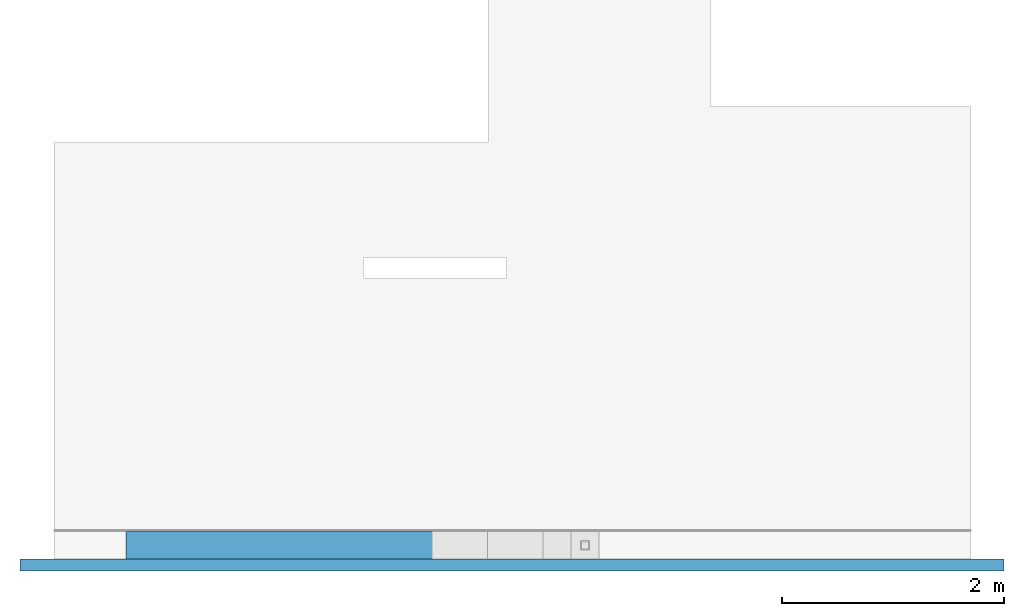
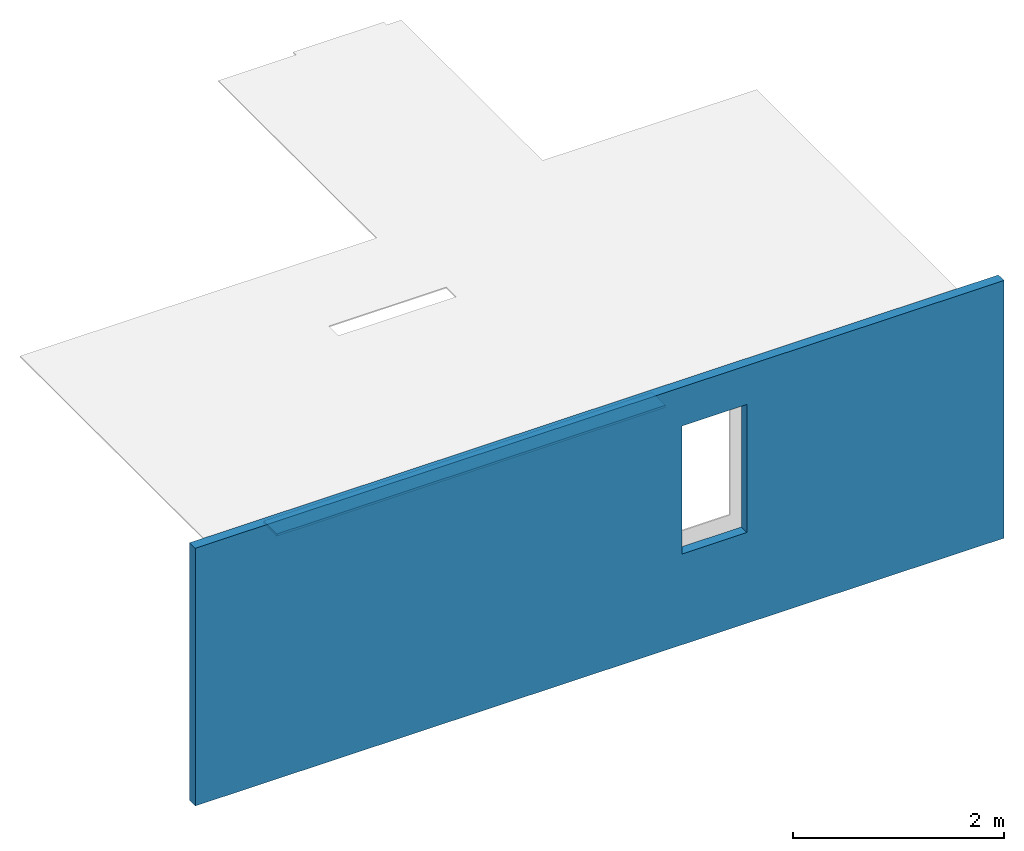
# One storey, part 1 of 2: 2 walls, 2 openings.
"""IFC4 building model written with IfcOpenShell, lengths in centimetres."""

import ifcopenshell
import ifcopenshell.guid

model = None  # the IFC model being written
_history = None  # IfcOwnerHistory: only IFC2X3 demands one
_inside = {}  # id of a spatial element -> (the spatial element, [elements in it])
_under = {}  # id of a project, library or spatial element -> (it, [spatial elements below it])
_declared = {}  # id of a project -> (the project, [libraries it declares])
_typed = {}  # id of a type object -> (the type object, [elements of that type])
_made_of = {}  # id of a material, layer set ... -> (it, [elements and type objects made of it])


def new_model(schema):
    """Start an empty IFC model of exactly this schema.

    Asked for "IFC4X3", IfcOpenShell would pick the latest addendum, in which some entities
    have other attributes; the version numbers below select the first issue.
    IFC2X3 requires an IfcOwnerHistory on every rooted entity: one is made here for all.
    """
    global model, _history
    if schema == "IFC4X3":
        model = ifcopenshell.file(schema_version=(4, 3, 0, 0))
    else:
        model = ifcopenshell.file(schema=schema)
    _inside.clear()
    _under.clear()
    _declared.clear()
    _typed.clear()
    _made_of.clear()
    _history = None
    if model.schema == "IFC2X3":
        org = make("IfcOrganization", Name="unknown")
        user = make(
            "IfcPersonAndOrganization",
            ThePerson=make("IfcPerson", FamilyName="unknown"),
            TheOrganization=org,
        )
        app = make(
            "IfcApplication",
            ApplicationDeveloper=org,
            Version="unknown",
            ApplicationFullName="unknown",
            ApplicationIdentifier="unknown",
        )
        _history = make(
            "IfcOwnerHistory",
            OwningUser=user,
            OwningApplication=app,
            ChangeAction="ADDED",
            CreationDate=0,
        )
    return model


def make(cls, **values):
    """One entity of the class cls with the attributes given. An attribute that is None is left unset."""
    return model.create_entity(
        cls, **{name: value for name, value in values.items() if value is not None}
    )


def entity(cls, *values):
    """Any entity or typed value of the class cls, its attributes in the order of the schema. None: left unset."""
    e = model.create_entity(cls)
    for i, value in enumerate(values):
        if value is not None:
            e[i] = value
    return e


def rooted(cls, **values):
    """An entity with a GlobalId (a new one), such as an element, a storey or a relation."""
    return make(cls, GlobalId=ifcopenshell.guid.new(), OwnerHistory=_history, **values)


def si_unit(unit_type, name, prefix=None):
    """IfcSIUnit, for example si_unit("LENGTHUNIT", "METRE", prefix="MILLI")."""
    return make("IfcSIUnit", UnitType=unit_type, Prefix=prefix, Name=name)


def converted_unit(unit_type, name, factor, base, dimensions=None, offset=None):
    """IfcConversionBasedUnit, such as the inch: factor (a typed value) times the base unit."""
    return make(
        "IfcConversionBasedUnit"
        if offset is None
        else "IfcConversionBasedUnitWithOffset",
        ConversionOffset=offset,
        Dimensions=None
        if dimensions is None
        else entity("IfcDimensionalExponents", *dimensions),
        UnitType=unit_type,
        Name=name,
        ConversionFactor=make(
            "IfcMeasureWithUnit", ValueComponent=factor, UnitComponent=base
        ),
    )


def assignment(units):
    """IfcUnitAssignment: the units of a project."""
    return None if units is None else make("IfcUnitAssignment", Units=units)


def point(xyz):
    """IfcCartesianPoint."""
    return None if xyz is None else make("IfcCartesianPoint", Coordinates=xyz)


def direction(xyz):
    """IfcDirection."""
    return None if xyz is None else make("IfcDirection", DirectionRatios=xyz)


def frame(location, z_axis=None, x_axis=None):
    """IfcAxis2Placement3D, a coordinate frame: its origin and axes. An axis left out is left unset."""
    return make(
        "IfcAxis2Placement3D",
        Location=point(location),
        Axis=direction(z_axis),
        RefDirection=direction(x_axis),
    )


def origin():
    """The frame at (0, 0, 0) with its axes left unset."""
    return frame((0.0, 0.0, 0.0))


def place(relative_to, where):
    """IfcLocalPlacement: puts the frame where relative to a parent placement (None: the world)."""
    return make(
        "IfcLocalPlacement", PlacementRelTo=relative_to, RelativePlacement=where
    )


def context(
    kind, dimensions, precision=None, world=None, true_north=None, identifier=None
):
    """IfcGeometricRepresentationContext, for example the 3D "Model" context."""
    return make(
        "IfcGeometricRepresentationContext",
        ContextIdentifier=identifier,
        ContextType=kind,
        CoordinateSpaceDimension=dimensions,
        Precision=precision,
        WorldCoordinateSystem=world,
        TrueNorth=true_north,
    )


def subcontext(parent, identifier, kind, view, scale=None):
    """IfcGeometricRepresentationSubContext, for example "Body" below "Model"."""
    return make(
        "IfcGeometricRepresentationSubContext",
        ContextIdentifier=identifier,
        ContextType=kind,
        ParentContext=parent,
        TargetScale=scale,
        TargetView=view,
    )


def project(units=None, contexts=None):
    """IfcProject with its units and contexts."""
    return rooted(
        "IfcProject",
        Name="project",
        RepresentationContexts=contexts,
        UnitsInContext=assignment(units),
    )


def spatial(cls, under=None, at=None, **own):
    """A site, building, storey or space (cls), placed at a placement, below another one or the project."""
    s = rooted(cls, ObjectPlacement=at, **own)
    if under is not None:
        _under.setdefault(under.id(), (under, []))[1].append(s)
    return s


def point_list(points):
    """IfcCartesianPointList2D or 3D."""
    cls = (
        "IfcCartesianPointList2D" if len(points[0]) == 2 else "IfcCartesianPointList3D"
    )
    return make(cls, CoordList=points)


def indexed_curve(points, segments=None, self_intersect=None):
    """IfcIndexedPolyCurve: lines and arcs through numbered points (the first is 1)."""
    return make(
        "IfcIndexedPolyCurve",
        Points=point_list(points),
        Segments=segments,
        SelfIntersect=self_intersect,
    )


def outline(outer, holes=None, kind="AREA"):
    """IfcArbitraryClosedProfileDef: a profile drawn as a closed curve; with holes, ...WithVoids."""
    if holes is None:
        return make("IfcArbitraryClosedProfileDef", ProfileType=kind, OuterCurve=outer)
    return make(
        "IfcArbitraryProfileDefWithVoids",
        ProfileType=kind,
        OuterCurve=outer,
        InnerCurves=holes,
    )


def extrude(swept, where, along, depth):
    """IfcExtrudedAreaSolid: the profile swept, set in the frame where, extruded along a direction by depth."""
    return make(
        "IfcExtrudedAreaSolid",
        SweptArea=swept,
        Position=where,
        ExtrudedDirection=direction(along),
        Depth=depth,
    )


def polygons(points, faces, closed=None, point_numbers=None):
    """IfcPolygonalFaceSet: a face is its outer loop, then its inner loops; points numbered from 1."""
    made = []
    for loops in faces:
        if len(loops) == 1:
            made.append(make("IfcIndexedPolygonalFace", CoordIndex=loops[0]))
        else:
            made.append(
                make(
                    "IfcIndexedPolygonalFaceWithVoids",
                    CoordIndex=loops[0],
                    InnerCoordIndices=loops[1:],
                )
            )
    return make(
        "IfcPolygonalFaceSet",
        Coordinates=point_list(points),
        Closed=closed,
        Faces=made,
        PnIndex=point_numbers,
    )


def shape(context_of_items, identifier, shape_type, items):
    """IfcShapeRepresentation: the items that make up one representation, for example the "Body"."""
    return make(
        "IfcShapeRepresentation",
        ContextOfItems=context_of_items,
        RepresentationIdentifier=identifier,
        RepresentationType=shape_type,
        Items=items,
    )


def material(Name=None, Category=None):
    """IfcMaterial."""
    return make("IfcMaterial", Name=Name, Category=Category)


def constituent(of_material, Name=None, Category=None, fraction=None):
    """IfcMaterialConstituent: one of the materials an element consists of."""
    return make(
        "IfcMaterialConstituent",
        Name=Name,
        Material=of_material,
        Fraction=fraction,
        Category=Category,
    )


def constituent_set(constituents=None, Name=None):
    """IfcMaterialConstituentSet."""
    return make(
        "IfcMaterialConstituentSet", Name=Name, MaterialConstituents=constituents
    )


def made_of(thing, what):
    """Note that an element or type object is made of a material, layer set ...; save() writes the relation."""
    if what is not None:
        _made_of.setdefault(what.id(), (what, []))[1].append(thing)
    return thing


def type_object(cls, material=None, **own):
    """A type object (cls), such as IfcWallType, which elements share."""
    return made_of(rooted(cls, **own), material)


def element(
    cls,
    number,
    at=None,
    inside=None,
    cuts=None,
    type_object=None,
    material=None,
    context=None,
    identifier="Body",
    shape_type=None,
    held_by="IfcProductDefinitionShape",
    body=None,
    shapes=None,
    **own,
):
    """One element of the class cls, such as IfcWall. Its Tag is "e" and its number.

    at: its placement. inside: the storey or other place that contains it. cuts: it is an
    opening in that element (IfcRelVoidsElement). A single representation is given by context,
    identifier, shape_type and body (its items); several are given by shapes. held_by: the class
    of the entity that holds the representations. save() writes the other relations.
    """
    e = rooted(cls, Tag="e%d" % number, ObjectPlacement=at, **own)
    if body is not None:
        shapes = [shape(context, identifier, shape_type, body)]
    if shapes is not None:
        e.Representation = make(held_by, Representations=shapes)
    if inside is not None:
        _inside.setdefault(inside.id(), (inside, []))[1].append(e)
    if cuts is not None:
        rooted(
            "IfcRelVoidsElement", RelatingBuildingElement=cuts, RelatedOpeningElement=e
        )
    if type_object is not None:
        _typed.setdefault(type_object.id(), (type_object, []))[1].append(e)
    return made_of(e, material)


def aggregate(whole, parts):
    """IfcRelAggregates: a whole, such as a stair, and the parts it consists of."""
    return rooted("IfcRelAggregates", RelatingObject=whole, RelatedObjects=parts)


def save(model, path):
    """Write the relations noted so far, then the file.

    IfcRelAggregates (storeys below a building ...), IfcRelContainedInSpatialStructure (elements
    in a storey), IfcRelDefinesByType, IfcRelAssociatesMaterial and IfcRelDeclares: one each for
    every whole, place, type object, material and project.
    """
    for whole, parts in _under.values():
        aggregate(whole, parts)
    for where, things in _inside.values():
        rooted(
            "IfcRelContainedInSpatialStructure",
            RelatedElements=things,
            RelatingStructure=where,
        )
    for kind, things in _typed.values():
        rooted("IfcRelDefinesByType", RelatedObjects=things, RelatingType=kind)
    for what, things in _made_of.values():
        rooted("IfcRelAssociatesMaterial", RelatedObjects=things, RelatingMaterial=what)
    for by, libraries in _declared.values():
        rooted("IfcRelDeclares", RelatingContext=by, RelatedDefinitions=libraries)
    model.write(path)


model = new_model("IFC4")

# Units and contexts
model_context = context("Model", 3, precision=0.001, world=origin(), true_north=direction((0.0, 1.0)))
body_context = subcontext(model_context, "Body", "Model", "MODEL_VIEW")
ifc_project = project(units=[si_unit("LENGTHUNIT", "METRE", prefix="CENTI"), si_unit("AREAUNIT", "SQUARE_METRE"), si_unit("VOLUMEUNIT", "CUBIC_METRE"), converted_unit("PLANEANGLEUNIT", "DEGREE", entity("IfcPlaneAngleMeasure", 0.017453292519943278), si_unit("PLANEANGLEUNIT", "RADIAN"), dimensions=[0, 0, 0, 0, 0, 0, 0])], contexts=[model_context])

# Site, building, storey
site_placement = place(None, origin())
site = spatial("IfcSite", under=ifc_project, at=site_placement, Name="Default", CompositionType="ELEMENT")
building_placement = place(site_placement, origin())
building = spatial("IfcBuilding", under=site, at=building_placement, CompositionType="ELEMENT")
storey_placement = place(building_placement, frame((0.0, 0.0, 558.0)))
storey = spatial("IfcBuildingStorey", under=building, at=storey_placement, Name="L02__ABOVE Slab", CompositionType="ELEMENT", Elevation=557.9999999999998)

# Wall, openings
ifc_material_1 = material(Name="_FCD FINISH__Spray-cork", Category="Concrete")
ifc_constituent_1 = constituent(ifc_material_1, Name="_FCD FINISH__Spray-cork", Category="Concrete", fraction=0.05660377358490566)
ifc_material_2 = material(Name="Default Wall", Category="Miscellaneous")
ifc_constituent_2 = constituent(ifc_material_2, Name="Layer", Category="Miscellaneous", fraction=0.14150943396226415)
ifc_material_3 = material(Name="_FCD LAYERS__Insulation__Wood-fiber__Steico", Category="Unassigned")
ifc_constituent_3 = constituent(ifc_material_3, Name="_FCD LAYERS__Insulation__Wood-fiber__Steico", Category="Unassigned", fraction=0.8018867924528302)
ifc_constituent_set = constituent_set(constituents=[ifc_constituent_1, ifc_constituent_2, ifc_constituent_3], Name="Basic Wall:wll__EXT ENCLOSURE__Spritzkork, Wood Insulation 10.6cm__TriqBriq, FS.3 3")
wall_type_1 = type_object("IfcWallType", Name="Walls : Basic Wall : wll__EXT ENCLOSURE__Spritzkork, Wood Insulation 10.6cm__TriqBriq, FS.3 3", PredefinedType="STANDARD", material=ifc_constituent_set)
wall_1_placement = place(storey_placement, frame((2762.507325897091, 1795.4022546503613, 0.0), z_axis=(0.0, 0.0, 1.0), x_axis=(-1.0, 0.0, 0.0)))
wall_1 = element("IfcWall", 1, at=wall_1_placement, inside=storey, type_object=wall_type_1, material=ifc_constituent_set, Name="Walls : Basic Wall : wll__EXT ENCLOSURE__Spritzkork, Wood Insulation 10.6cm__TriqBriq, FS.3 3", PredefinedType="NOTDEFINED", context=body_context, shape_type="SweptSolid", body=[
    extrude(outline(indexed_curve([(-148.99999999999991, -442.24999999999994), (149.00000000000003, -442.24999999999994), (149.00000000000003, 442.24999999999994), (-148.99999999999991, 442.24999999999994), (-148.99999999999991, -442.24999999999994)], self_intersect=False), holes=[indexed_curve([(-44.00000000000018, 90.04999999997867), (-44.00000000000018, 161.04999999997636), (104.00000000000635, 161.04999999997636), (104.00000000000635, 90.04999999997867), (-44.00000000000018, 90.04999999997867)], self_intersect=False)]), frame((442.24999999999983, 4.700000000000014, 149.0), z_axis=(0.0, -1.0, 0.0), x_axis=(0.0, 0.0, 1.0)), (0.0, 0.0, 1.0), 1.5000000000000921),
    extrude(outline(indexed_curve([(-148.99999999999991, -442.2499999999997), (149.00000000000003, -442.2499999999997), (149.00000000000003, 442.24999999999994), (-148.99999999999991, 442.24999999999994), (-148.99999999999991, -442.2499999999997)], self_intersect=False), holes=[indexed_curve([(-44.00000000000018, 90.04999999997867), (-44.00000000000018, 161.04999999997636), (104.00000000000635, 161.04999999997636), (104.00000000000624, 90.04999999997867), (-44.00000000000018, 90.04999999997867)], self_intersect=False)]), frame((442.24999999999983, 3.1999999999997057, 149.0), z_axis=(0.0, -1.0, 0.0), x_axis=(0.0, 0.0, 1.0)), (0.0, 0.0, 1.0), 8.4999999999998),
    extrude(outline(indexed_curve([(-148.99999999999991, -442.24999999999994), (149.00000000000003, -442.24999999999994), (149.00000000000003, 442.24999999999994), (-148.99999999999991, 442.24999999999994), (-148.99999999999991, -442.24999999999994)], self_intersect=False), holes=[indexed_curve([(-44.00000000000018, 90.04999999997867), (-44.00000000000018, 161.04999999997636), (104.00000000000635, 161.04999999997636), (104.00000000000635, 90.04999999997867), (-44.00000000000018, 90.04999999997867)], self_intersect=False)]), frame((442.24999999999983, 5.299999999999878, 149.0), z_axis=(0.0, -1.0, 0.0), x_axis=(0.0, 0.0, 1.0)), (0.0, 0.0, 1.0), 0.6000000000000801),
])
opening_1_placement = place(wall_1_placement, frame((2762.507325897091, 1795.4022546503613, 103.0), z_axis=(0.0, 0.0, 1.0), x_axis=(-1.0, 0.0, 0.0)))
element("IfcOpeningElement", 2, at=opening_1_placement, cuts=wall_1, Name="Walls : Basic Wall : wll__EXT ENCLOSURE__Spritzkork, Wood Insulation 10.6cm__TriqBriq, FS.3 3", PredefinedType="OPENING", context=body_context, shape_type="SweptSolid", body=[
    extrude(outline(indexed_curve([(-37.499999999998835, -86.49999999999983), (37.499999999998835, -86.49999999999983), (37.499999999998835, 86.50000000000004), (-37.499999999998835, 86.50000000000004), (-37.499999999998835, -86.49999999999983)], self_intersect=False)), frame((2445.8073258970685, 1850.7022546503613, 86.49999999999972), z_axis=(0.0, -1.0, 0.0), x_axis=(1.0, 0.0, 0.0)), (0.0, 0.0, 1.0), 49.99999999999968),
])
opening_2_placement = place(wall_1_placement, frame((2762.507325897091, 1795.4022546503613, 103.0), z_axis=(0.0, 0.0, 1.0), x_axis=(-1.0, 0.0, 0.0)))
element("IfcOpeningElement", 3, at=opening_2_placement, cuts=wall_1, Name="Walls : Basic Wall : wll__EXT ENCLOSURE__Spritzkork, Wood Insulation 10.6cm__TriqBriq, FS.3 3", PredefinedType="OPENING", context=body_context, shape_type="Tessellation", body=[
    polygons([(2483.3073258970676, 1800.7022546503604, 173.00000000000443), (2408.30732589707, 1800.7022546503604, 173.00000000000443), (2408.30732589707, 1800.7022546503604, 2.2737367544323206e-13), (2483.3073258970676, 1800.7022546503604, 2.2737367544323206e-13), (2481.3073258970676, 1800.7022546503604, 1.9999999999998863), (2410.30732589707, 1800.7022546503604, 1.9999999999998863), (2410.30732589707, 1800.7022546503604, 150.00000000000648), (2481.3073258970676, 1800.7022546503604, 150.00000000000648), (2483.3073258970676, 1800.9022546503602, 173.00000000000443), (2483.3073258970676, 1800.9022546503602, 2.2737367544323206e-13), (2408.30732589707, 1800.9022546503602, 2.2737367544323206e-13), (2408.30732589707, 1800.9022546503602, 173.00000000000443), (2481.3073258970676, 1800.9022546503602, 150.00000000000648), (2410.30732589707, 1800.9022546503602, 150.00000000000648), (2410.30732589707, 1800.9022546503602, 1.9999999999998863), (2481.3073258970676, 1800.9022546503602, 1.9999999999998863), (2481.3073258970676, 1760.1022546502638, 150.00000000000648), (2410.30732589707, 1760.1022546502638, 150.00000000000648), (2410.30732589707, 1760.1022546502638, 1.9999999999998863), (2481.3073258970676, 1760.1022546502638, 1.9999999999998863), (2481.3073258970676, 1805.7022546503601, 150.00000000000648), (2481.3073258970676, 1805.7022546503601, 1.9999999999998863), (2410.30732589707, 1805.7022546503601, 1.9999999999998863), (2410.30732589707, 1805.7022546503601, 150.00000000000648)], [[[1, 2, 3, 4], [5, 6, 7, 8]], [[9, 10, 11, 12], [13, 14, 15, 16]], [[4, 10, 9, 1]], [[3, 11, 10, 4]], [[2, 12, 11, 3]], [[1, 9, 12, 2]], [[17, 18, 19, 20]], [[21, 22, 23, 24]], [[21, 13, 16, 22]], [[22, 16, 15, 23]], [[23, 15, 14, 24]], [[24, 14, 13, 21]], [[17, 8, 7, 18]], [[18, 7, 6, 19]], [[19, 6, 5, 20]], [[20, 5, 8, 17]]], closed=True),
])

# Wall
ifc_material_4 = material(Name="_STRUCTURE__Wood Solid")
wall_type_2 = type_object("IfcWallType", Name="Columns : wll_s__DECOUPLING BEAM__Rectangular__wp : Wood", PredefinedType="SOLIDWALL", material=ifc_material_4)
wall_2_placement = place(storey_placement, frame((1973.307325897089, 1800.7022546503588, 272.0)))
element("IfcWall", 4, at=wall_2_placement, inside=storey, type_object=wall_type_2, material=ifc_material_4, Name="Columns : wll_s__DECOUPLING BEAM__Rectangular__wp : Wood", PredefinedType="SOLIDWALL", context=body_context, shape_type="SweptSolid", body=[
    extrude(outline(indexed_curve([(-212.49999999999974, -12.499999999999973), (212.50000000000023, -12.499999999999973), (212.50000000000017, 12.499999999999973), (-212.4999999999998, 12.499999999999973), (-212.49999999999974, -12.499999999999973)], self_intersect=False)), frame((212.5000000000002, 12.500000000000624, 0.0), z_axis=(0.0, 0.0, 1.0), x_axis=(-1.0, 0.0, 0.0)), (0.0, 0.0, 1.0), 2.6999999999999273),
])

save(model, "model.ifc")
